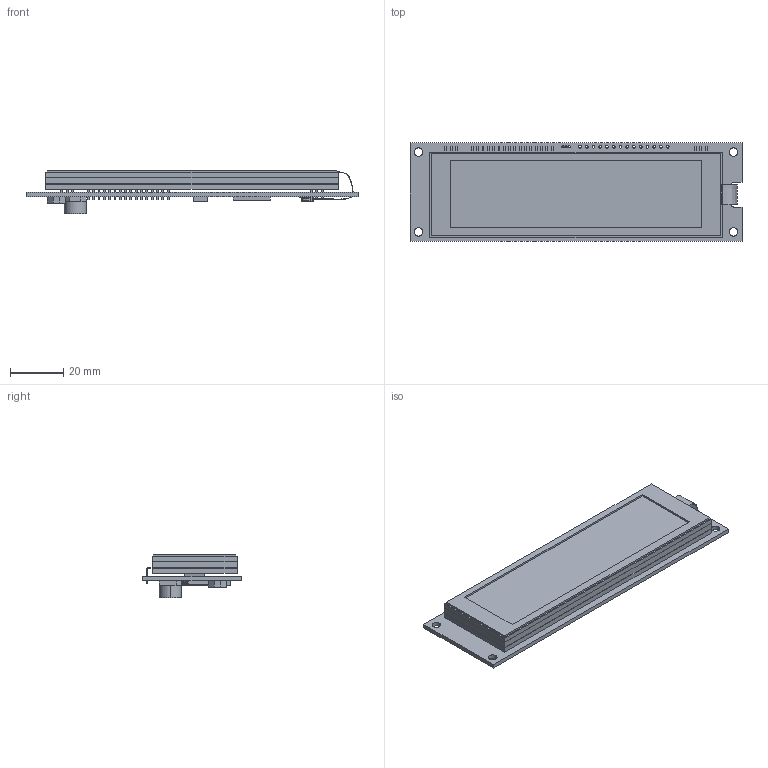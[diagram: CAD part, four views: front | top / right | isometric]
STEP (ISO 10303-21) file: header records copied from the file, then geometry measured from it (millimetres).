
FILE_DESCRIPTION((''),'2;1');
FILE_NAME('GU256X64C-D903M_ASM','2015-12-17T',('samx'),(''),'PRO/ENGINEER BY PARAMETRIC TECHNOLOGY CORPORATION, 2010280','PRO/ENGINEER BY PARAMETRIC TECHNOLOGY CORPORATION, 2010280','');
FILE_SCHEMA(('CONFIG_CONTROL_DESIGN'));
Length unit declared in the file: millimetre
Products named in the file (4): GU256X64C-D903M; TSP0802X008; IRISO_IMSA-9631S-14Y800; GU256X64C-D903M_ASM
Assembly tree (3 placements, depth 2):
  GU256X64C-D903M_ASM
    GU256X64C-D903M
    TSP0802X008
    IRISO_IMSA-9631S-14Y800
Bounding box: 125 x 37 x 16.4 mm (x, y, z)
Volume: 25427.8 mm3; surface area: 32073.4 mm2
Topology: 4 solids, 4 shells, 1560 faces, 5244 edges, 3616 vertices
Faces by surface type: plane 1304, cylinder 247, sphere 5, extrusion 2, torus 2
Entity records: 56806 total; most frequent: CARTESIAN_POINT 10838, ORIENTED_EDGE 10112, DIRECTION 8815, EDGE_CURVE 5056, VECTOR 4597, LINE 4595, VERTEX_POINT 3254, AXIS2_PLACEMENT_3D 2109
